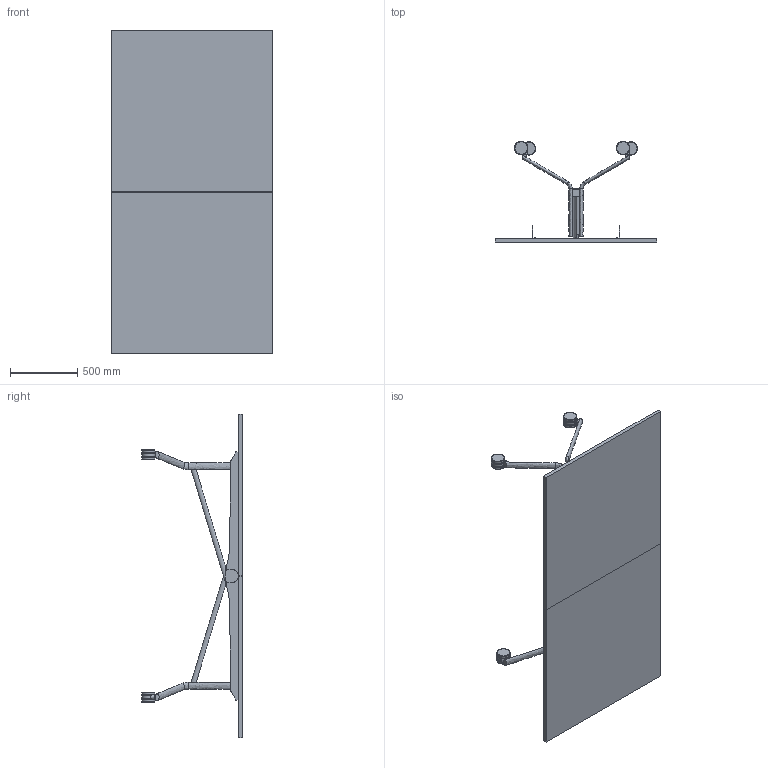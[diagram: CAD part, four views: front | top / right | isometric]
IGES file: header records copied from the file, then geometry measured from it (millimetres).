
Global section: file name: Mesa libro 2400x1200; native system: Autodesk Inventor 2021; preprocessor: unknown; author: auxdiseno; date: 20230209.121412; units: millimetre
Bounding box: 1200 x 746.2 x 2400 mm (x, y, z)
Volume: 83306961.3 mm3; surface area: 7694805.7 mm2
Topology: 58 solids, 58 shells, 818 faces, 2146 edges, 1480 vertices
Faces by surface type: bspline 818
